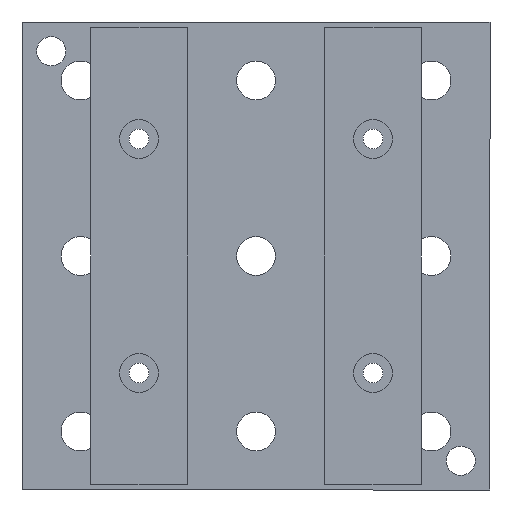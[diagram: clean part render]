
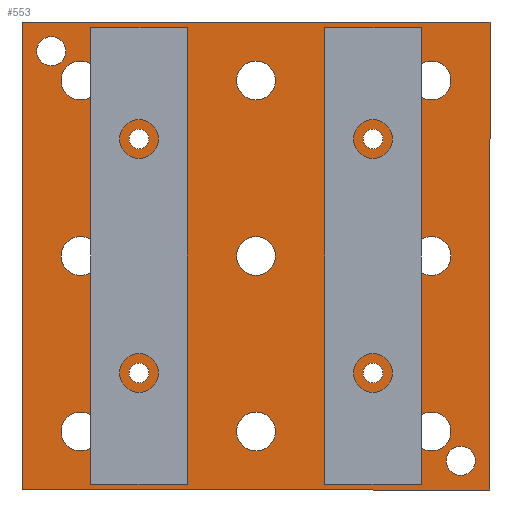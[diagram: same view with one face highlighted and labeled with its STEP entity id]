
A CAD part, left-side view. The second image highlights one B-rep face of the part: STEP entity #553.
In plain terms, the highlighted planar face has unit normal (-1, 0, 0) as drawn and (0, 0, -1) by its records, which use the part's own axes.
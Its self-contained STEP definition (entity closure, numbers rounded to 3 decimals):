
#45=LINE('',#971,#69);
#49=LINE('',#978,#73);
#52=LINE('',#984,#76);
#54=LINE('',#987,#78);
#69=VECTOR('',#824,80.);
#73=VECTOR('',#830,80.);
#76=VECTOR('',#835,80.);
#78=VECTOR('',#839,80.);
#89=PLANE('',#683);
#112=FACE_BOUND('',#220,.T.);
#113=FACE_BOUND('',#221,.T.);
#114=FACE_BOUND('',#222,.T.);
#115=FACE_BOUND('',#223,.T.);
#116=FACE_BOUND('',#224,.T.);
#117=FACE_BOUND('',#225,.T.);
#118=FACE_BOUND('',#226,.T.);
#119=FACE_BOUND('',#227,.T.);
#120=FACE_BOUND('',#228,.T.);
#121=FACE_BOUND('',#229,.T.);
#122=FACE_BOUND('',#230,.T.);
#123=FACE_BOUND('',#231,.T.);
#124=FACE_BOUND('',#232,.T.);
#125=FACE_BOUND('',#233,.T.);
#126=FACE_BOUND('',#234,.T.);
#169=FACE_OUTER_BOUND('',#219,.T.);
#219=EDGE_LOOP('',(#471,#472,#473,#474));
#220=EDGE_LOOP('',(#475));
#221=EDGE_LOOP('',(#476));
#222=EDGE_LOOP('',(#477));
#223=EDGE_LOOP('',(#478));
#224=EDGE_LOOP('',(#479));
#225=EDGE_LOOP('',(#480));
#226=EDGE_LOOP('',(#481));
#227=EDGE_LOOP('',(#482));
#228=EDGE_LOOP('',(#483));
#229=EDGE_LOOP('',(#484));
#230=EDGE_LOOP('',(#485));
#231=EDGE_LOOP('',(#486));
#232=EDGE_LOOP('',(#487));
#233=EDGE_LOOP('',(#488));
#234=EDGE_LOOP('',(#489));
#255=CIRCLE('',#635,2.5);
#257=CIRCLE('',#638,2.5);
#259=CIRCLE('',#641,1.7);
#261=CIRCLE('',#644,1.7);
#263=CIRCLE('',#647,1.7);
#265=CIRCLE('',#650,1.7);
#267=CIRCLE('',#653,3.324);
#269=CIRCLE('',#656,3.324);
#271=CIRCLE('',#659,3.324);
#273=CIRCLE('',#662,3.324);
#275=CIRCLE('',#665,3.324);
#277=CIRCLE('',#668,3.324);
#279=CIRCLE('',#671,3.324);
#281=CIRCLE('',#674,3.324);
#283=CIRCLE('',#677,3.324);
#297=VERTEX_POINT('',#890);
#299=VERTEX_POINT('',#895);
#301=VERTEX_POINT('',#900);
#303=VERTEX_POINT('',#905);
#305=VERTEX_POINT('',#910);
#307=VERTEX_POINT('',#915);
#309=VERTEX_POINT('',#920);
#311=VERTEX_POINT('',#925);
#313=VERTEX_POINT('',#930);
#315=VERTEX_POINT('',#935);
#317=VERTEX_POINT('',#940);
#319=VERTEX_POINT('',#945);
#321=VERTEX_POINT('',#950);
#323=VERTEX_POINT('',#955);
#325=VERTEX_POINT('',#960);
#329=VERTEX_POINT('',#968);
#330=VERTEX_POINT('',#970);
#332=VERTEX_POINT('',#976);
#334=VERTEX_POINT('',#982);
#351=EDGE_CURVE('',#297,#297,#255,.T.);
#353=EDGE_CURVE('',#299,#299,#257,.T.);
#355=EDGE_CURVE('',#301,#301,#259,.T.);
#357=EDGE_CURVE('',#303,#303,#261,.T.);
#359=EDGE_CURVE('',#305,#305,#263,.T.);
#361=EDGE_CURVE('',#307,#307,#265,.T.);
#363=EDGE_CURVE('',#309,#309,#267,.T.);
#365=EDGE_CURVE('',#311,#311,#269,.T.);
#367=EDGE_CURVE('',#313,#313,#271,.T.);
#369=EDGE_CURVE('',#315,#315,#273,.T.);
#371=EDGE_CURVE('',#317,#317,#275,.T.);
#373=EDGE_CURVE('',#319,#319,#277,.T.);
#375=EDGE_CURVE('',#321,#321,#279,.T.);
#377=EDGE_CURVE('',#323,#323,#281,.T.);
#379=EDGE_CURVE('',#325,#325,#283,.T.);
#383=EDGE_CURVE('',#329,#330,#45,.T.);
#387=EDGE_CURVE('',#332,#329,#49,.T.);
#390=EDGE_CURVE('',#334,#332,#52,.T.);
#392=EDGE_CURVE('',#330,#334,#54,.T.);
#471=ORIENTED_EDGE('',*,*,#392,.F.);
#472=ORIENTED_EDGE('',*,*,#383,.F.);
#473=ORIENTED_EDGE('',*,*,#387,.F.);
#474=ORIENTED_EDGE('',*,*,#390,.F.);
#475=ORIENTED_EDGE('',*,*,#351,.T.);
#476=ORIENTED_EDGE('',*,*,#353,.T.);
#477=ORIENTED_EDGE('',*,*,#355,.T.);
#478=ORIENTED_EDGE('',*,*,#357,.T.);
#479=ORIENTED_EDGE('',*,*,#359,.T.);
#480=ORIENTED_EDGE('',*,*,#361,.T.);
#481=ORIENTED_EDGE('',*,*,#363,.T.);
#482=ORIENTED_EDGE('',*,*,#365,.T.);
#483=ORIENTED_EDGE('',*,*,#367,.T.);
#484=ORIENTED_EDGE('',*,*,#369,.T.);
#485=ORIENTED_EDGE('',*,*,#371,.T.);
#486=ORIENTED_EDGE('',*,*,#373,.T.);
#487=ORIENTED_EDGE('',*,*,#375,.T.);
#488=ORIENTED_EDGE('',*,*,#377,.T.);
#489=ORIENTED_EDGE('',*,*,#379,.T.);
#553=ADVANCED_FACE('',(#169,#112,#113,#114,#115,#116,#117,#118,#119,#120,
#121,#122,#123,#124,#125,#126),#89,.F.);
#635=AXIS2_PLACEMENT_3D('',#891,#732,#733);
#638=AXIS2_PLACEMENT_3D('',#896,#738,#739);
#641=AXIS2_PLACEMENT_3D('',#901,#744,#745);
#644=AXIS2_PLACEMENT_3D('',#906,#750,#751);
#647=AXIS2_PLACEMENT_3D('',#911,#756,#757);
#650=AXIS2_PLACEMENT_3D('',#916,#762,#763);
#653=AXIS2_PLACEMENT_3D('',#921,#768,#769);
#656=AXIS2_PLACEMENT_3D('',#926,#774,#775);
#659=AXIS2_PLACEMENT_3D('',#931,#780,#781);
#662=AXIS2_PLACEMENT_3D('',#936,#786,#787);
#665=AXIS2_PLACEMENT_3D('',#941,#792,#793);
#668=AXIS2_PLACEMENT_3D('',#946,#798,#799);
#671=AXIS2_PLACEMENT_3D('',#951,#804,#805);
#674=AXIS2_PLACEMENT_3D('',#956,#810,#811);
#677=AXIS2_PLACEMENT_3D('',#961,#816,#817);
#683=AXIS2_PLACEMENT_3D('',#988,#840,#841);
#732=DIRECTION('center_axis',(0.,0.,1.));
#733=DIRECTION('ref_axis',(1.,0.,0.));
#738=DIRECTION('center_axis',(0.,0.,1.));
#739=DIRECTION('ref_axis',(1.,0.,0.));
#744=DIRECTION('center_axis',(0.,0.,1.));
#745=DIRECTION('ref_axis',(1.,0.,0.));
#750=DIRECTION('center_axis',(0.,0.,1.));
#751=DIRECTION('ref_axis',(1.,0.,0.));
#756=DIRECTION('center_axis',(0.,0.,1.));
#757=DIRECTION('ref_axis',(1.,0.,0.));
#762=DIRECTION('center_axis',(0.,0.,1.));
#763=DIRECTION('ref_axis',(1.,0.,0.));
#768=DIRECTION('center_axis',(0.,0.,1.));
#769=DIRECTION('ref_axis',(1.,0.,0.));
#774=DIRECTION('center_axis',(0.,0.,1.));
#775=DIRECTION('ref_axis',(1.,0.,0.));
#780=DIRECTION('center_axis',(0.,0.,1.));
#781=DIRECTION('ref_axis',(1.,0.,0.));
#786=DIRECTION('center_axis',(0.,0.,1.));
#787=DIRECTION('ref_axis',(1.,0.,0.));
#792=DIRECTION('center_axis',(0.,0.,1.));
#793=DIRECTION('ref_axis',(1.,0.,0.));
#798=DIRECTION('center_axis',(0.,0.,1.));
#799=DIRECTION('ref_axis',(1.,0.,0.));
#804=DIRECTION('center_axis',(0.,0.,1.));
#805=DIRECTION('ref_axis',(1.,0.,0.));
#810=DIRECTION('center_axis',(0.,0.,1.));
#811=DIRECTION('ref_axis',(1.,0.,0.));
#816=DIRECTION('center_axis',(0.,0.,1.));
#817=DIRECTION('ref_axis',(1.,0.,0.));
#824=DIRECTION('',(0.,-1.,0.));
#830=DIRECTION('',(-1.,0.,0.));
#835=DIRECTION('',(0.,1.,0.));
#839=DIRECTION('',(1.,0.,0.));
#840=DIRECTION('center_axis',(0.,0.,1.));
#841=DIRECTION('ref_axis',(1.,0.,0.));
#890=CARTESIAN_POINT('',(72.5,5.,0.));
#891=CARTESIAN_POINT('Origin',(75.,5.,0.));
#895=CARTESIAN_POINT('',(2.5,75.,0.));
#896=CARTESIAN_POINT('Origin',(5.,75.,0.));
#900=CARTESIAN_POINT('',(58.3,20.,0.));
#901=CARTESIAN_POINT('Origin',(60.,20.,0.));
#905=CARTESIAN_POINT('',(18.3,20.,0.));
#906=CARTESIAN_POINT('Origin',(20.,20.,0.));
#910=CARTESIAN_POINT('',(58.3,60.,0.));
#911=CARTESIAN_POINT('Origin',(60.,60.,0.));
#915=CARTESIAN_POINT('',(18.3,60.,0.));
#916=CARTESIAN_POINT('Origin',(20.,60.,0.));
#920=CARTESIAN_POINT('',(66.677,10.,0.));
#921=CARTESIAN_POINT('Origin',(70.,10.,0.));
#925=CARTESIAN_POINT('',(36.677,10.,0.));
#926=CARTESIAN_POINT('Origin',(40.,10.,0.));
#930=CARTESIAN_POINT('',(6.677,10.,0.));
#931=CARTESIAN_POINT('Origin',(10.,10.,0.));
#935=CARTESIAN_POINT('',(66.677,40.,0.));
#936=CARTESIAN_POINT('Origin',(70.,40.,0.));
#940=CARTESIAN_POINT('',(36.677,40.,0.));
#941=CARTESIAN_POINT('Origin',(40.,40.,0.));
#945=CARTESIAN_POINT('',(6.677,40.,0.));
#946=CARTESIAN_POINT('Origin',(10.,40.,0.));
#950=CARTESIAN_POINT('',(66.677,70.,0.));
#951=CARTESIAN_POINT('Origin',(70.,70.,0.));
#955=CARTESIAN_POINT('',(36.677,70.,0.));
#956=CARTESIAN_POINT('Origin',(40.,70.,0.));
#960=CARTESIAN_POINT('',(6.677,70.,0.));
#961=CARTESIAN_POINT('Origin',(10.,70.,0.));
#968=CARTESIAN_POINT('',(0.,80.,0.));
#970=CARTESIAN_POINT('',(0.,0.,0.));
#971=CARTESIAN_POINT('',(0.,80.,0.));
#976=CARTESIAN_POINT('',(80.,80.,0.));
#978=CARTESIAN_POINT('',(80.,80.,0.));
#982=CARTESIAN_POINT('',(80.,0.,0.));
#984=CARTESIAN_POINT('',(80.,0.,0.));
#987=CARTESIAN_POINT('',(0.,0.,0.));
#988=CARTESIAN_POINT('Origin',(40.,40.,0.));
